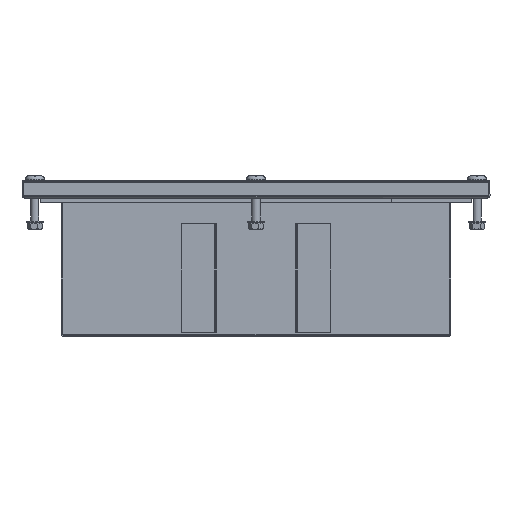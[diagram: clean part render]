
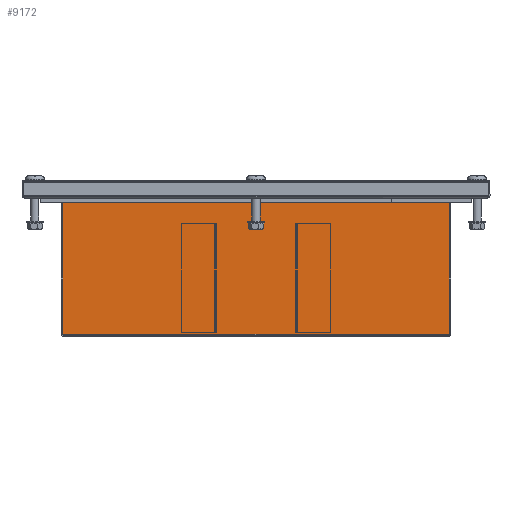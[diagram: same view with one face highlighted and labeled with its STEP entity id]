
A CAD part, front view. The second image highlights one B-rep face of the part: STEP entity #9172.
In plain terms, the highlighted planar face has unit normal (0, -1, 0).
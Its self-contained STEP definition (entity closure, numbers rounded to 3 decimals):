
#323 = VERTEX_POINT ( 'NONE', #7861 ) ;
#416 = CARTESIAN_POINT ( 'NONE',  ( 142.429, -648., 0.5 ) ) ;
#454 = VERTEX_POINT ( 'NONE', #416 ) ;
#540 = EDGE_CURVE ( 'NONE', #1616, #5654, #6209, .T. ) ;
#1188 = EDGE_CURVE ( 'NONE', #10437, #323, #6325, .T. ) ;
#1209 = DIRECTION ( 'NONE',  ( 0., 0., 1. ) ) ;
#1507 = DIRECTION ( 'NONE',  ( -1., 0., 0. ) ) ;
#1592 = ORIENTED_EDGE ( 'NONE', *, *, #5094, .T. ) ;
#1616 = VERTEX_POINT ( 'NONE', #7547 ) ;
#1846 = EDGE_CURVE ( 'NONE', #323, #4116, #11763, .T. ) ;
#1907 = ORIENTED_EDGE ( 'NONE', *, *, #3157, .F. ) ;
#2064 = CARTESIAN_POINT ( 'NONE',  ( 142.429, -648., 112.5 ) ) ;
#2373 = CARTESIAN_POINT ( 'NONE',  ( 141.793, -648., 112.5 ) ) ;
#2449 = CARTESIAN_POINT ( 'NONE',  ( 141.793, -648., 0.5 ) ) ;
#2480 = AXIS2_PLACEMENT_3D ( 'NONE', #8162, #9064, #3482 ) ;
#2868 = ORIENTED_EDGE ( 'NONE', *, *, #540, .F. ) ;
#2909 = LINE ( 'NONE', #3477, #3061 ) ;
#3061 = VECTOR ( 'NONE', #1507, 1000. ) ;
#3153 = CARTESIAN_POINT ( 'NONE',  ( -142.429, -648., 0.5 ) ) ;
#3157 = EDGE_CURVE ( 'NONE', #4116, #1616, #9365, .T. ) ;
#3175 = CARTESIAN_POINT ( 'NONE',  ( 142.429, -648., 0.5 ) ) ;
#3477 = CARTESIAN_POINT ( 'NONE',  ( 0., -648., 0.5 ) ) ;
#3482 = DIRECTION ( 'NONE',  ( 0., 0., 1. ) ) ;
#3680 = ORIENTED_EDGE ( 'NONE', *, *, #1846, .F. ) ;
#3834 = VECTOR ( 'NONE', #10844, 1000. ) ;
#3926 = CARTESIAN_POINT ( 'NONE',  ( -141.793, -648., 0.5 ) ) ;
#4116 = VERTEX_POINT ( 'NONE', #7549 ) ;
#4384 = CARTESIAN_POINT ( 'NONE',  ( -141.793, -648., 112.5 ) ) ;
#4451 = LINE ( 'NONE', #10357, #4756 ) ;
#4584 = ORIENTED_EDGE ( 'NONE', *, *, #7587, .F. ) ;
#4756 = VECTOR ( 'NONE', #5783, 1000. ) ;
#5069 = CARTESIAN_POINT ( 'NONE',  ( 141.793, -648., 0.5 ) ) ;
#5094 = EDGE_CURVE ( 'NONE', #9862, #454, #6631, .T. ) ;
#5326 = DIRECTION ( 'NONE',  ( 1., 0., 0. ) ) ;
#5654 = VERTEX_POINT ( 'NONE', #2373 ) ;
#5783 = DIRECTION ( 'NONE',  ( -1., 0., 0. ) ) ;
#6056 = ORIENTED_EDGE ( 'NONE', *, *, #1188, .F. ) ;
#6197 = FACE_OUTER_BOUND ( 'NONE', #9533, .T. ) ;
#6209 = LINE ( 'NONE', #4384, #3834 ) ;
#6325 = LINE ( 'NONE', #8699, #8771 ) ;
#6331 = VECTOR ( 'NONE', #5326, 1000. ) ;
#6596 = VERTEX_POINT ( 'NONE', #2064 ) ;
#6631 = LINE ( 'NONE', #2449, #6331 ) ;
#7168 = CARTESIAN_POINT ( 'NONE',  ( -142.429, -648., 112.5 ) ) ;
#7236 = VECTOR ( 'NONE', #8111, 1000. ) ;
#7523 = VECTOR ( 'NONE', #8757, 1000. ) ;
#7547 = CARTESIAN_POINT ( 'NONE',  ( -141.793, -648., 112.5 ) ) ;
#7549 = CARTESIAN_POINT ( 'NONE',  ( -142.429, -648., 112.5 ) ) ;
#7587 = EDGE_CURVE ( 'NONE', #9862, #10437, #2909, .T. ) ;
#7861 = CARTESIAN_POINT ( 'NONE',  ( -142.429, -648., 0.5 ) ) ;
#7902 = LINE ( 'NONE', #3175, #12125 ) ;
#8111 = DIRECTION ( 'NONE',  ( 1., 0., 0. ) ) ;
#8162 = CARTESIAN_POINT ( 'NONE',  ( 0., -648., 0. ) ) ;
#8699 = CARTESIAN_POINT ( 'NONE',  ( -141.793, -648., 0.5 ) ) ;
#8757 = DIRECTION ( 'NONE',  ( 0., 0., 1. ) ) ;
#8771 = VECTOR ( 'NONE', #9609, 1000. ) ;
#8993 = ORIENTED_EDGE ( 'NONE', *, *, #9400, .T. ) ;
#9064 = DIRECTION ( 'NONE',  ( 0., 1., 0. ) ) ;
#9172 = ADVANCED_FACE ( 'NONE', ( #6197 ), #11772, .F. ) ;
#9365 = LINE ( 'NONE', #7168, #7236 ) ;
#9400 = EDGE_CURVE ( 'NONE', #6596, #5654, #4451, .T. ) ;
#9533 = EDGE_LOOP ( 'NONE', ( #2868, #1907, #3680, #6056, #4584, #1592, #9690, #8993 ) ) ;
#9609 = DIRECTION ( 'NONE',  ( -1., 0., 0. ) ) ;
#9690 = ORIENTED_EDGE ( 'NONE', *, *, #11258, .T. ) ;
#9862 = VERTEX_POINT ( 'NONE', #5069 ) ;
#10357 = CARTESIAN_POINT ( 'NONE',  ( 142.429, -648., 112.5 ) ) ;
#10437 = VERTEX_POINT ( 'NONE', #3926 ) ;
#10844 = DIRECTION ( 'NONE',  ( 1., 0., 0. ) ) ;
#11258 = EDGE_CURVE ( 'NONE', #454, #6596, #7902, .T. ) ;
#11763 = LINE ( 'NONE', #3153, #7523 ) ;
#11772 = PLANE ( 'NONE',  #2480 ) ;
#12125 = VECTOR ( 'NONE', #1209, 1000. ) ;
